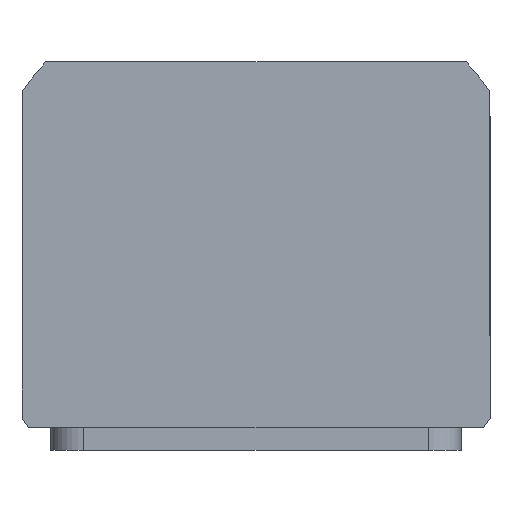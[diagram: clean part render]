
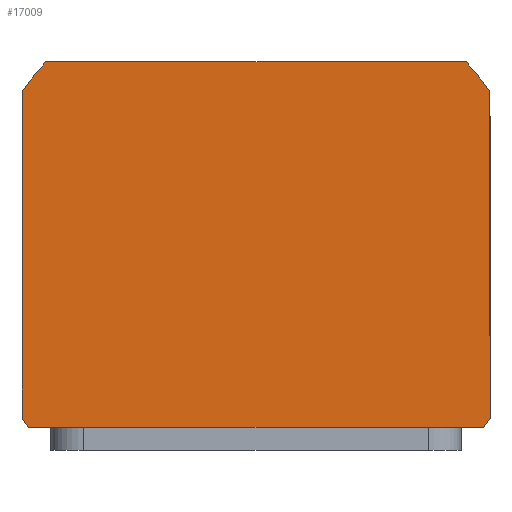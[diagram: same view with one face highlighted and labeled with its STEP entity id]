
A CAD part, top view. The second image highlights one B-rep face of the part: STEP entity #17009.
In plain terms, the highlighted planar face has unit normal (0, 0, 1) as drawn and (0, 0, -1) by its records, which use the part's own axes.
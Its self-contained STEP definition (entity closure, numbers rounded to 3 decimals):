
#175 = CIRCLE ( 'NONE', #6728, 69.5 ) ;
#525 = DIRECTION ( 'NONE',  ( 0., 0., 1. ) ) ;
#558 = VERTEX_POINT ( 'NONE', #6868 ) ;
#616 = DIRECTION ( 'NONE',  ( 0., 1., 0. ) ) ;
#778 = LINE ( 'NONE', #13330, #8321 ) ;
#977 = VERTEX_POINT ( 'NONE', #2898 ) ;
#1702 = VECTOR ( 'NONE', #5139, 1000. ) ;
#1835 = LINE ( 'NONE', #18013, #8932 ) ;
#2160 = CARTESIAN_POINT ( 'NONE',  ( -55.382, 44.5, 0. ) ) ;
#2308 = ORIENTED_EDGE ( 'NONE', *, *, #16458, .F. ) ;
#2439 = ORIENTED_EDGE ( 'NONE', *, *, #15812, .F. ) ;
#2833 = CARTESIAN_POINT ( 'NONE',  ( 57., -37.255, 0. ) ) ;
#2898 = CARTESIAN_POINT ( 'NONE',  ( 57., 42.275, 0. ) ) ;
#3213 = AXIS2_PLACEMENT_3D ( 'NONE', #6786, #16620, #8206 ) ;
#3481 = ORIENTED_EDGE ( 'NONE', *, *, #8023, .F. ) ;
#4055 = VERTEX_POINT ( 'NONE', #2160 ) ;
#5030 = DIRECTION ( 'NONE',  ( 0., 0., 1. ) ) ;
#5098 = CARTESIAN_POINT ( 'NONE',  ( 57., 44.5, 0. ) ) ;
#5112 = CARTESIAN_POINT ( 'NONE',  ( -51.189, -44.5, 0. ) ) ;
#5139 = DIRECTION ( 'NONE',  ( -1., 0., 0. ) ) ;
#5175 = CARTESIAN_POINT ( 'NONE',  ( 55.382, 44.5, 0. ) ) ;
#5568 = VERTEX_POINT ( 'NONE', #10484 ) ;
#5672 = EDGE_CURVE ( 'NONE', #4055, #5568, #11049, .T. ) ;
#6143 = CARTESIAN_POINT ( 'NONE',  ( 0., 0., 0. ) ) ;
#6340 = CARTESIAN_POINT ( 'NONE',  ( 0., 2.51, 0. ) ) ;
#6393 = VECTOR ( 'NONE', #616, 1000. ) ;
#6628 = DIRECTION ( 'NONE',  ( 0., 0., 1. ) ) ;
#6669 = ORIENTED_EDGE ( 'NONE', *, *, #14268, .F. ) ;
#6728 = AXIS2_PLACEMENT_3D ( 'NONE', #15046, #6628, #16469 ) ;
#6786 = CARTESIAN_POINT ( 'NONE',  ( 0., 2.51, 0. ) ) ;
#6868 = CARTESIAN_POINT ( 'NONE',  ( 51.189, -44.5, 0. ) ) ;
#6913 = VERTEX_POINT ( 'NONE', #5112 ) ;
#7036 = VERTEX_POINT ( 'NONE', #5175 ) ;
#7677 = EDGE_CURVE ( 'NONE', #8473, #977, #13423, .T. ) ;
#7779 = DIRECTION ( 'NONE',  ( 1., 0., 0. ) ) ;
#7817 = EDGE_LOOP ( 'NONE', ( #3481, #9529, #6669, #9099, #2439, #13092, #13950, #2308 ) ) ;
#8023 = EDGE_CURVE ( 'NONE', #977, #7036, #12110, .T. ) ;
#8206 = DIRECTION ( 'NONE',  ( 1., 0., 0. ) ) ;
#8234 = DIRECTION ( 'NONE',  ( 0., -1., 0. ) ) ;
#8321 = VECTOR ( 'NONE', #14738, 1000. ) ;
#8473 = VERTEX_POINT ( 'NONE', #2833 ) ;
#8932 = VECTOR ( 'NONE', #8234, 1000. ) ;
#9001 = PLANE ( 'NONE',  #17684 ) ;
#9099 = ORIENTED_EDGE ( 'NONE', *, *, #12749, .F. ) ;
#9529 = ORIENTED_EDGE ( 'NONE', *, *, #7677, .F. ) ;
#10406 = DIRECTION ( 'NONE',  ( 1., 0., 0. ) ) ;
#10484 = CARTESIAN_POINT ( 'NONE',  ( -57., 42.275, 0. ) ) ;
#10489 = AXIS2_PLACEMENT_3D ( 'NONE', #6340, #16177, #7779 ) ;
#10731 = EDGE_CURVE ( 'NONE', #5568, #16915, #1835, .T. ) ;
#10739 = FACE_OUTER_BOUND ( 'NONE', #7817, .T. ) ;
#11049 = CIRCLE ( 'NONE', #10489, 69.5 ) ;
#11757 = CARTESIAN_POINT ( 'NONE',  ( -57., -37.255, 0. ) ) ;
#12110 = CIRCLE ( 'NONE', #3213, 69.5 ) ;
#12749 = EDGE_CURVE ( 'NONE', #6913, #558, #778, .T. ) ;
#13092 = ORIENTED_EDGE ( 'NONE', *, *, #10731, .F. ) ;
#13330 = CARTESIAN_POINT ( 'NONE',  ( -57., -44.5, 0. ) ) ;
#13423 = LINE ( 'NONE', #5098, #6393 ) ;
#13476 = CARTESIAN_POINT ( 'NONE',  ( 0., 2.51, 0. ) ) ;
#13950 = ORIENTED_EDGE ( 'NONE', *, *, #5672, .F. ) ;
#14268 = EDGE_CURVE ( 'NONE', #558, #8473, #18044, .T. ) ;
#14738 = DIRECTION ( 'NONE',  ( 1., 0., 0. ) ) ;
#14892 = DIRECTION ( 'NONE',  ( 1., 0., 0. ) ) ;
#15046 = CARTESIAN_POINT ( 'NONE',  ( 0., 2.51, 0. ) ) ;
#15108 = AXIS2_PLACEMENT_3D ( 'NONE', #13476, #5030, #14892 ) ;
#15812 = EDGE_CURVE ( 'NONE', #16915, #6913, #175, .T. ) ;
#16177 = DIRECTION ( 'NONE',  ( 0., 0., 1. ) ) ;
#16227 = LINE ( 'NONE', #17852, #1702 ) ;
#16458 = EDGE_CURVE ( 'NONE', #7036, #4055, #16227, .T. ) ;
#16469 = DIRECTION ( 'NONE',  ( 1., 0., 0. ) ) ;
#16620 = DIRECTION ( 'NONE',  ( 0., 0., 1. ) ) ;
#16915 = VERTEX_POINT ( 'NONE', #11757 ) ;
#17009 = ADVANCED_FACE ( 'NONE', ( #10739 ), #9001, .F. ) ;
#17684 = AXIS2_PLACEMENT_3D ( 'NONE', #6143, #525, #10406 ) ;
#17852 = CARTESIAN_POINT ( 'NONE',  ( -57., 44.5, 0. ) ) ;
#18013 = CARTESIAN_POINT ( 'NONE',  ( -57., 44.5, 0. ) ) ;
#18044 = CIRCLE ( 'NONE', #15108, 69.5 ) ;
